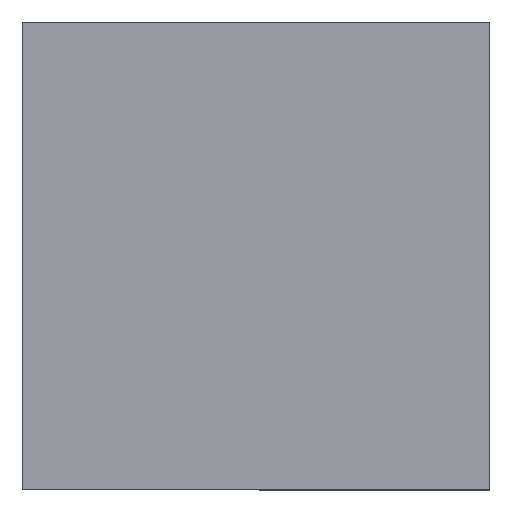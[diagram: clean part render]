
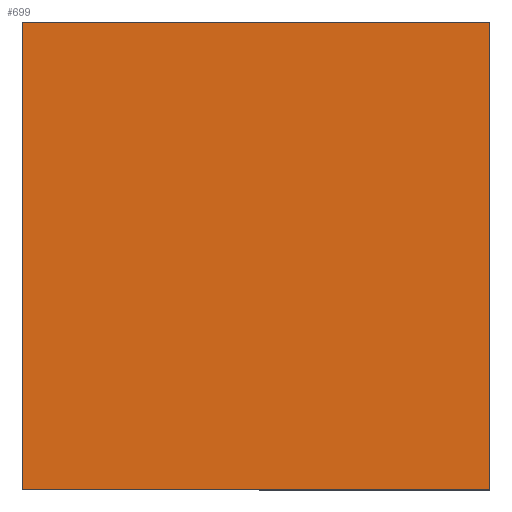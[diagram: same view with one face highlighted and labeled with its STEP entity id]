
A CAD part, top view. The second image highlights one B-rep face of the part: STEP entity #699.
In plain terms, the highlighted planar face has unit normal (0, 0, 1).
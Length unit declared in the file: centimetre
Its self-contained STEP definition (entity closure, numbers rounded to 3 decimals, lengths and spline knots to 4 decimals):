
#4 = DIRECTION ( 'NONE',  ( 0., 0., 1. ) ) ;
#7 = DIRECTION ( 'NONE',  ( 0., 1., 0. ) ) ;
#35 = VERTEX_POINT ( 'NONE', #576 ) ;
#43 = EDGE_LOOP ( 'NONE', ( #616, #578, #727, #385 ) ) ;
#57 = DIRECTION ( 'NONE',  ( 0., -1., 0. ) ) ;
#72 = DIRECTION ( 'NONE',  ( 1., 0., 0. ) ) ;
#86 = CARTESIAN_POINT ( 'NONE',  ( 0., 0., 1000. ) ) ;
#95 = VERTEX_POINT ( 'NONE', #186 ) ;
#116 = VECTOR ( 'NONE', #57, 100. ) ;
#128 = AXIS2_PLACEMENT_3D ( 'NONE', #393, #4, #72 ) ;
#163 = LINE ( 'NONE', #614, #179 ) ;
#178 = FACE_OUTER_BOUND ( 'NONE', #43, .T. ) ;
#179 = VECTOR ( 'NONE', #214, 100. ) ;
#186 = CARTESIAN_POINT ( 'NONE',  ( 1000., 1000., 1000. ) ) ;
#214 = DIRECTION ( 'NONE',  ( -1., 0., 0. ) ) ;
#232 = EDGE_CURVE ( 'NONE', #95, #446, #163, .T. ) ;
#279 = CARTESIAN_POINT ( 'NONE',  ( 0., 1000., 1000. ) ) ;
#284 = CARTESIAN_POINT ( 'NONE',  ( 0., 0., 1000. ) ) ;
#285 = CARTESIAN_POINT ( 'NONE',  ( 1000., 1000., 1000. ) ) ;
#289 = VECTOR ( 'NONE', #539, 100. ) ;
#385 = ORIENTED_EDGE ( 'NONE', *, *, #232, .T. ) ;
#387 = CARTESIAN_POINT ( 'NONE',  ( 0., 1000., 1000. ) ) ;
#392 = VECTOR ( 'NONE', #7, 100. ) ;
#393 = CARTESIAN_POINT ( 'NONE',  ( 0., 0., 1000. ) ) ;
#446 = VERTEX_POINT ( 'NONE', #279 ) ;
#451 = EDGE_CURVE ( 'NONE', #35, #95, #695, .T. ) ;
#539 = DIRECTION ( 'NONE',  ( 1., 0., 0. ) ) ;
#576 = CARTESIAN_POINT ( 'NONE',  ( 1000., 0., 1000. ) ) ;
#578 = ORIENTED_EDGE ( 'NONE', *, *, #581, .T. ) ;
#581 = EDGE_CURVE ( 'NONE', #711, #35, #585, .T. ) ;
#585 = LINE ( 'NONE', #86, #289 ) ;
#614 = CARTESIAN_POINT ( 'NONE',  ( 0., 1000., 1000. ) ) ;
#616 = ORIENTED_EDGE ( 'NONE', *, *, #632, .T. ) ;
#630 = LINE ( 'NONE', #387, #116 ) ;
#632 = EDGE_CURVE ( 'NONE', #446, #711, #630, .T. ) ;
#634 = PLANE ( 'NONE',  #128 ) ;
#695 = LINE ( 'NONE', #285, #392 ) ;
#699 = ADVANCED_FACE ( 'NONE', ( #178 ), #634, .T. ) ;
#711 = VERTEX_POINT ( 'NONE', #284 ) ;
#727 = ORIENTED_EDGE ( 'NONE', *, *, #451, .T. ) ;
